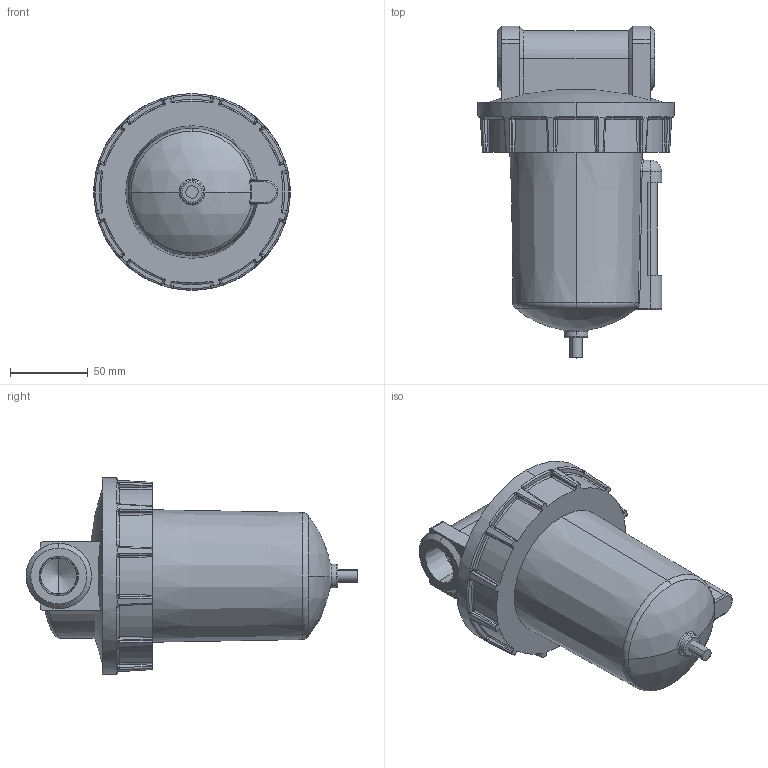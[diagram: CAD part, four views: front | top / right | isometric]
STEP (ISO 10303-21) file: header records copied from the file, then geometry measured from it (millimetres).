
FILE_DESCRIPTION (( 'STEP AP203' ), '1' );
FILE_NAME ('F602W-06#YB#.STEP', '2016-01-14T18:01:32', ( '' ), ( '' ), 'SwSTEP 2.0', 'SolidWorks 2014', '' );
FILE_SCHEMA (( 'CONFIG_CONTROL_DESIGN' ));
Length unit declared in the file: millimetre
Products named in the file (4): F602W-06; F602W-06#YB#; L606-W-06-5; L606-W-06-2
Assembly tree (3 placements, depth 2):
  F602W-06#YB#
    F602W-06
    L606-W-06-2
    L606-W-06-5
Bounding box: 126 x 213 x 126 mm (x, y, z)
Volume: 1147912.2 mm3; surface area: 96306.5 mm2
Topology: 4 solids, 4 shells, 343 faces, 861 edges, 502 vertices
Faces by surface type: bspline 107, plane 75, cylinder 67, torus 35, cone 30, sphere 29
Entity records: 13646 total; most frequent: CARTESIAN_POINT 6084, ORIENTED_EDGE 1662, DIRECTION 1344, EDGE_CURVE 831, AXIS2_PLACEMENT_3D 587, VERTEX_POINT 501, EDGE_LOOP 348, CIRCLE 345
